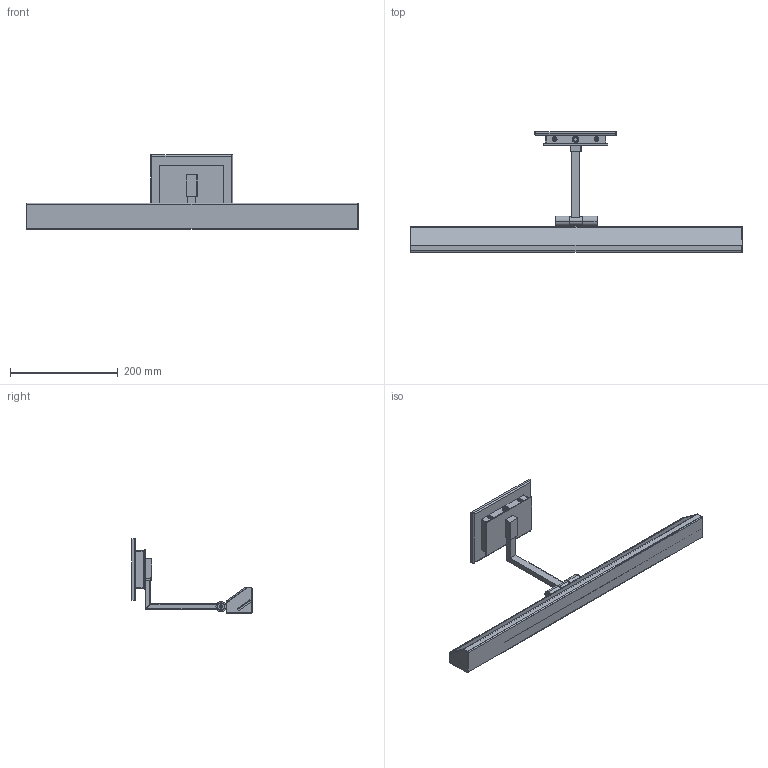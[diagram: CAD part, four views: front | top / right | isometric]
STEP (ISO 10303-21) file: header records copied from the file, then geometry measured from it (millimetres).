
FILE_DESCRIPTION((''),'2;1');
FILE_NAME('PIC824-E0_ASM','2024-12-19T',('Elliot.Tan'),(''),'PRO/ENGINEER BY PARAMETRIC TECHNOLOGY CORPORATION, 2009360','PRO/ENGINEER BY PARAMETRIC TECHNOLOGY CORPORATION, 2009360','');
FILE_SCHEMA(('AUTOMOTIVE_DESIGN_CC2 { 1 2 10303 214 -1 1 5 2 }'));
Length unit declared in the file: millimetre
Products named in the file (25): PIC814-18; PIC814-17; PIC814-11; PIC814-10; PIC814-09; PIC814-06; PIC814-E2_ASM; PIC814-05; PIC824-01; PIC824-22; PIC814-02; PIC824-23; PIC824-E1_ASM; PIC814-08; PIC824-05; PIC-824; PIC814-26; PIC824-03; PIC824-04; PIC814-16; WS77618-08; UF0001-06; S2CTFEB-12; 7EAF121002BK; PIC824-E0_ASM
Assembly tree (36 placements, depth 3):
  PIC824-E0_ASM
    PIC814-18
    PIC814-17
    PIC814-E2_ASM
      PIC814-11
      PIC814-10
      PIC814-09
      PIC814-06
    PIC814-05  x2
    PIC824-E1_ASM
      PIC824-01
      PIC824-22
      PIC814-02  x2
      PIC824-23
    PIC814-08  x2
    PIC824-05
    PIC-824
    PIC814-26  x4
    PIC824-03
    PIC824-04
    PIC814-16
    WS77618-08
    UF0001-06  x2
    S2CTFEB-12  x6
    7EAF121002BK
Bounding box: 617 x 223.15 x 138 mm (x, y, z)
Volume: 371419.8 mm3; surface area: 554655.2 mm2
Topology: 34 solids, 43 shells, 1868 faces, 4582 edges, 2954 vertices
Faces by surface type: plane 1411, cylinder 307, cone 82, torus 48, bspline 16, sphere 4
Entity records: 51293 total; most frequent: CARTESIAN_POINT 10011, ORIENTED_EDGE 8074, DIRECTION 8055, EDGE_CURVE 4054, VECTOR 3315, LINE 3315, VERTEX_POINT 2608, AXIS2_PLACEMENT_3D 2370
